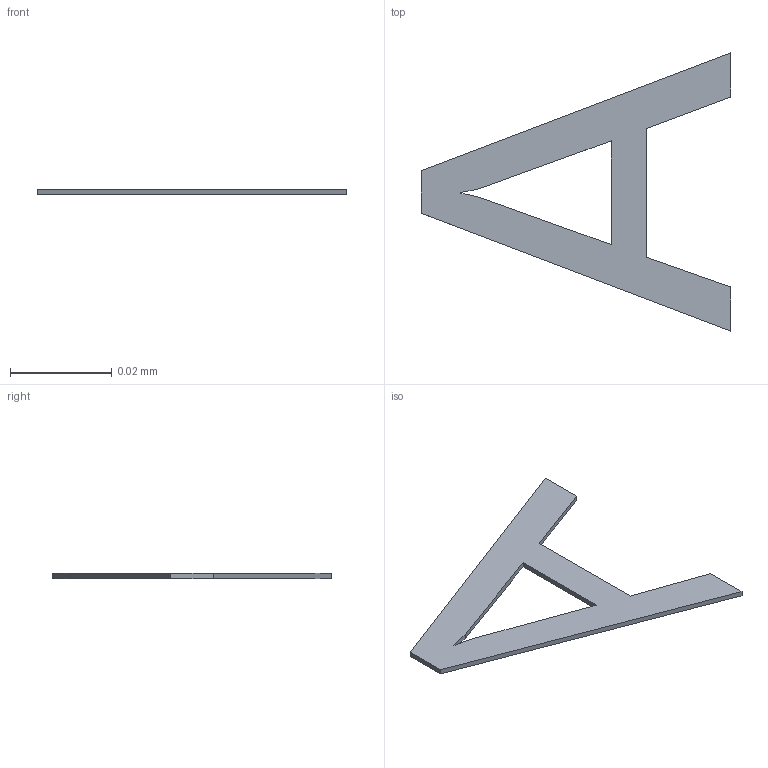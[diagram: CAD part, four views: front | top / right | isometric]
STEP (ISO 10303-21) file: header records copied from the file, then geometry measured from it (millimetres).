
FILE_DESCRIPTION(/* description */ ('STEP AP242 Edition 2','CAx-IF Rec.Pracs.---Representation and Presentation of Product Manufacturing Information (PMI)---4.0---2014-10-13','CAx-IF Rec.Pracs.---3D Tessellated Geometry---0.4---2014-09-14','2;1','CAx-IF Rec.Pracs.---User Defined Attributes---1.5---2016-08-15'),/* implementation_level */ '2;1');
FILE_NAME(/* name */ 'Assembly 1 - SOT-23-3_L2.9-W1.3-P0.95-LS2.4-BR~SOT-23-3P_L2.9-W1.3-H1.0-LS2.4-P0.95~nxQB (14)',/* time_stamp */ '2026-04-02T09:55:23Z',/* author */ (''),/* organization */ (''),/* preprocessor_version */ 'ST-DEVELOPER v20',/* originating_system */ 'ONSHAPE BY PTC INC, 1.212',/* authorisation */ ' ');
FILE_SCHEMA (('AP242_MANAGED_MODEL_BASED_3D_ENGINEERING_MIM_LF { 1 0 10303 442 3 1 4 }'));
Length unit declared in the file: metre
Products named in the file (1): SOT-23-3_L2.9-W1.3-P0.95-LS2.4-BR~SOT-23-3P_L2.9-W1.3-H1.0-LS2.4-P0.9
5~nxQB
Bounding box: 0.06 x 0.05 x 0 mm (x, y, z)
Volume: 0 mm3; surface area: 0 mm2
Topology: 1 solids, 1 shells, 16 faces, 42 edges, 28 vertices
Faces by surface type: plane 14, bspline 2
Entity records: 637 total; most frequent: CARTESIAN_POINT 113, ORIENTED_EDGE 84, DIRECTION 68, EDGE_CURVE 42, LINE 38, VECTOR 38, VERTEX_POINT 28, EDGE_LOOP 18
